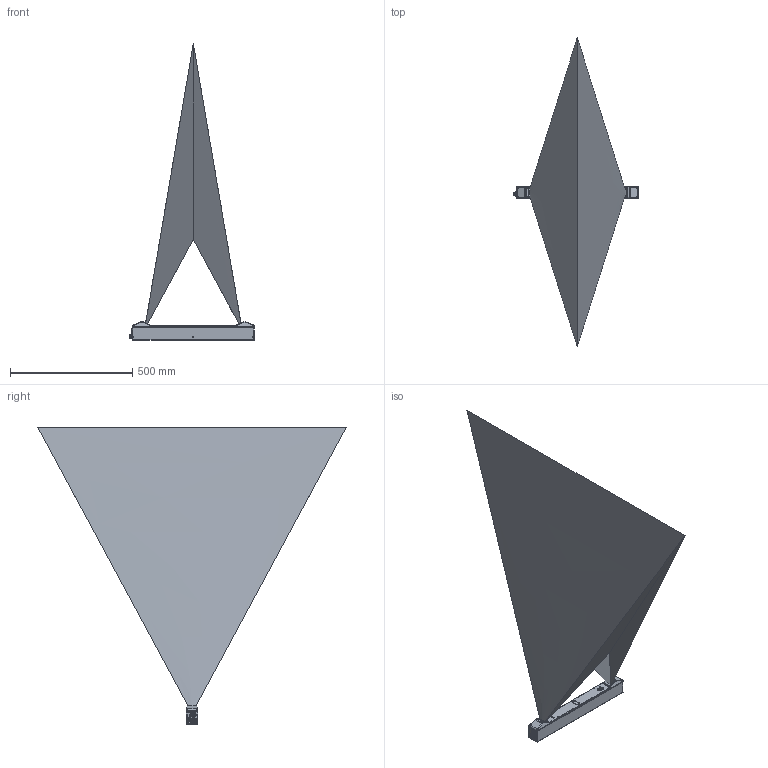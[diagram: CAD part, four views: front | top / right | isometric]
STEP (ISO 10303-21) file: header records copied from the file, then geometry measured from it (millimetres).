
FILE_DESCRIPTION (( 'STEP AP203' ), '1' );
FILE_NAME ('25033.01.02_CAD_Gocator-2880_312880X-X-R-01-T.step', '2024-02-14T21:58:30', ( '' ), ( '' ), 'SwSTEP 2.0', 'SolidWorks 2022', '' );
FILE_SCHEMA (( 'CONFIG_CONTROL_DESIGN' ));
Length unit declared in the file: millimetre
Products named in the file (5): 25033.01.02_CAD_Gocator-2880_312880X-X-R-01-T; [G2880]-Reception-CAM2; 25033; [G2880]-FOV; [G2880]-Reception-CAM1
Assembly tree (4 placements, depth 2):
  25033.01.02_CAD_Gocator-2880_312880X-X-R-01-T
    25033
    [G2880]-Reception-CAM1
    [G2880]-Reception-CAM2
    [G2880]-FOV
Bounding box: 508.7 x 1260 x 1211.5 mm (x, y, z)
Volume: 89297351.7 mm3; surface area: 4123375.1 mm2
Topology: 3 solids, 6 shells, 1478 faces, 4136 edges, 2826 vertices
Faces by surface type: plane 512, cylinder 423, bspline 383, cone 156, sphere 4
Entity records: 63972 total; most frequent: CARTESIAN_POINT 28110, ORIENTED_EDGE 8180, DIRECTION 5956, EDGE_CURVE 4092, VERTEX_POINT 2826, VECTOR 2054, LINE 2054, AXIS2_PLACEMENT_3D 1951
